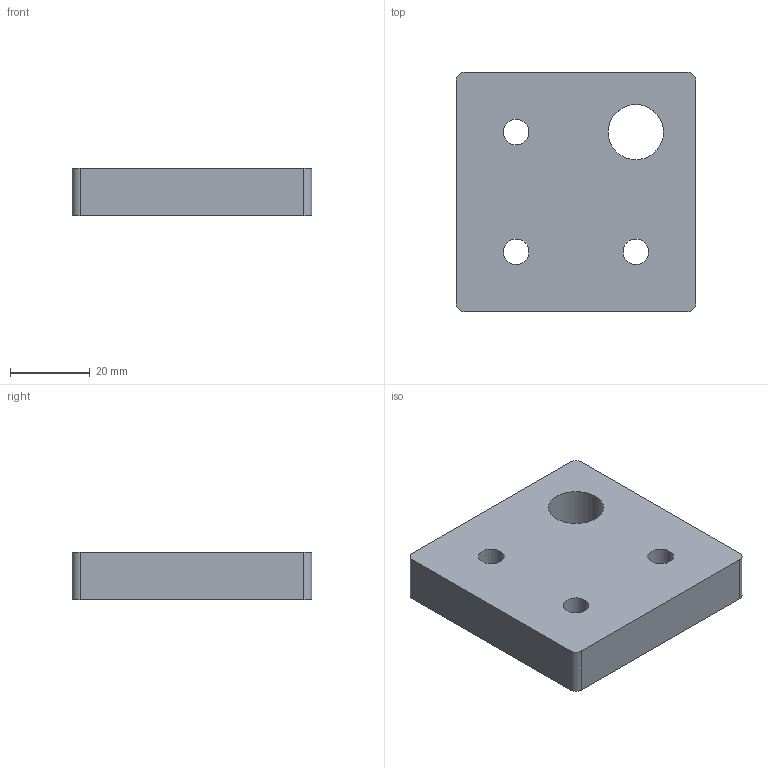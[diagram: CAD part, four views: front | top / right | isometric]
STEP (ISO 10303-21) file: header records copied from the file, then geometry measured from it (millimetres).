
FILE_DESCRIPTION (( 'STEP AP203' ), '1' );
FILE_NAME ('DFB6060CM16.STEP', '2020-10-14T02:38:54', ( '' ), ( '' ), 'SwSTEP 2.0', 'SolidWorks 2017', '' );
FILE_SCHEMA (( 'CONFIG_CONTROL_DESIGN' ));
Length unit declared in the file: millimetre
Products named in the file (1): DFB6060CM16
Bounding box: 60 x 60 x 12 mm (x, y, z)
Volume: 38989.7 mm3; surface area: 11061.1 mm2
Topology: 1 solids, 1 shells, 27 faces, 66 edges, 44 vertices
Faces by surface type: cylinder 18, plane 9
Entity records: 909 total; most frequent: DIRECTION 158, CARTESIAN_POINT 138, ORIENTED_EDGE 132, EDGE_CURVE 66, AXIS2_PLACEMENT_3D 64, VERTEX_POINT 44, EDGE_LOOP 38, CIRCLE 36
